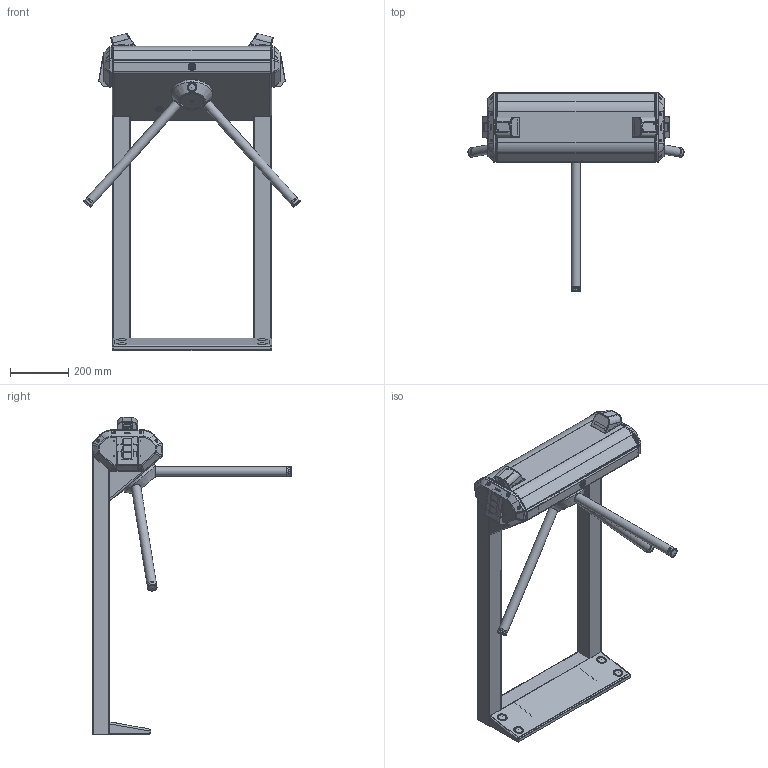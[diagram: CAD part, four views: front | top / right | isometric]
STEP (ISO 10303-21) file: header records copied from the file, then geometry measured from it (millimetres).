
FILE_DESCRIPTION(/* description */ ('Unknown'),/* implementation_level */ '2;1');
FILE_NAME(/* name */ 'KT02.9Q',/* time_stamp */ '2021-11-25T10:44:45+03:00',/* author */ ('Unknown'),/* organization */ ('Unknown'),/* preprocessor_version */ 'ST-DEVELOPER v18.1',/* originating_system */ 'Solid Edge',/* authorisation */ 'Unknown');
FILE_SCHEMA (('CONFIG_CONTROL_DESIGN'));
Products named in the file (1): KT02.9Q
Bounding box: 739.56 x 682.4 x 1084.18 mm (x, y, z)
Volume: 3866502.7 mm3; surface area: 3018211.2 mm2
Topology: 50 solids, 50 shells, 3272 faces, 8514 edges, 5420 vertices
Faces by surface type: plane 1643, cylinder 919, bspline 401, cone 105, sphere 102, torus 102
Full cylindrical faces by diameter (mm): 1.9 x2, 2 x1, 2.459 x4, 3 x4, 3.2 x9, 3.3 x10, 3.6 x2, 4 x2, 4.134 x4, 4.2 x8, 4.4 x8, 5 x14, 6 x4, 6.647 x3, 7 x2, 7.2 x2, 8.4 x1, 10 x6, 10.5 x2, 12 x6, 15.5 x2, 16 x2, 17 x1, 17.5 x1, 19 x2, 19.2 x2, 20.2 x2, 21 x12, 23.2 x2, 23.4 x3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
Entity records: 110875 total; most frequent: CARTESIAN_POINT 28198, ORIENTED_EDGE 16068, DIRECTION 15560, EDGE_CURVE 8034, AXIS2_PLACEMENT_3D 5386, VERTEX_POINT 5252, LINE 4788, VECTOR 4788
